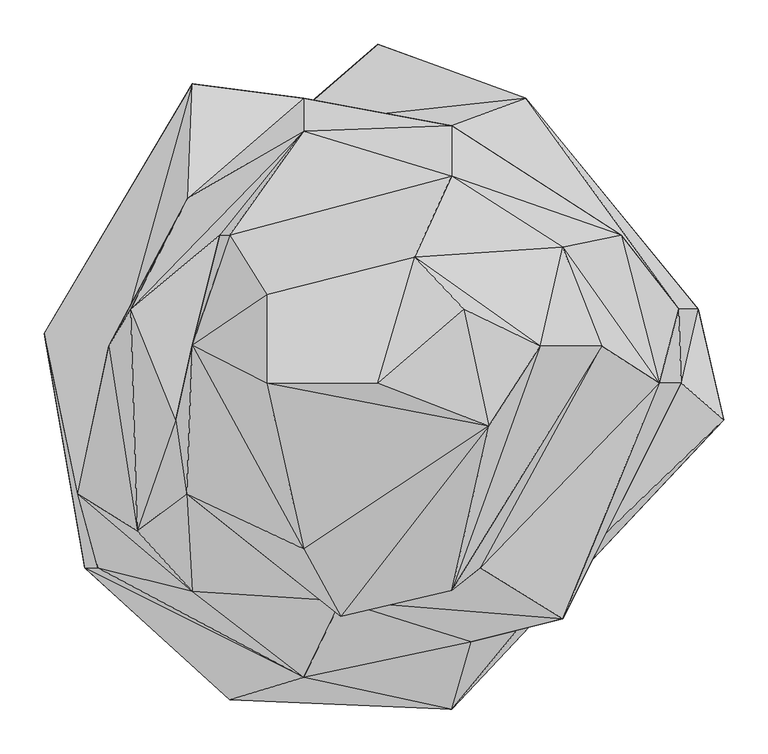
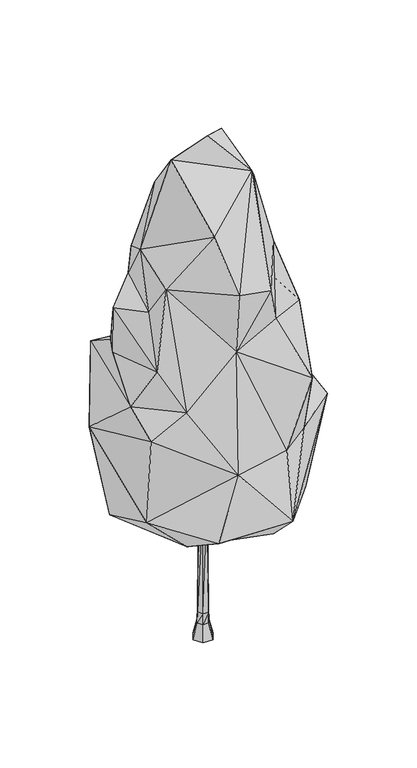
"""IFC4 building model written with IfcOpenShell, lengths in millimetres: geographic element geometry, Enscape AssetDefinition - Coniferous Tree 017 Spruce : Enscape AssetDefinition - Coniferous Tree 017 Spruce 4."""

from ifc_helpers import new_model, si_unit, origin, place, context, project, spatial, triangles, source, transform, mapped, element, save


def geographic_element_a222e020(model_context):
    return source(origin(), model_context, "Body", "Tessellation", [
        triangles([(-302.0208273, 37.0957962, 498.2528721), (-363.6179214, 51.387234, 832.7128349), (-154.2535388, -171.8130774, 456.6667113), (-317.8649729, -213.5947749, 626.5816669), (-154.2535388, -362.9038662, 583.8053535), (-303.4327143, -213.5947749, 918.2652437), (-196.1264553, -240.5940535, 1003.8178705), (-70.5076194, -337.3453245, 789.9365215), (96.9839785, -373.7875042, 583.8053535), (119.1541641, -297.1584424, 789.9365215), (-28.6347211, -251.251161, 1174.9229061), (222.6028007, -271.2110074, 1003.8178705), (222.6028007, -220.9975752, 789.9365215), (375.2889387, 78.8774892, 626.5816669), (404.2813914, -46.4677305, 747.1602081), (306.3486337, -88.2495461, 468.3243573), (96.9839785, -255.3765996, 466.6047675), (306.3486337, 37.0957962, 478.4427804), (353.5501857, 78.8774892, 918.2652437), (180.729757, 317.6248713, 754.9103891), (331.1138735, -4.6860322, 1089.3702793), (288.3307654, 162.4410114, 1132.1466654), (96.9839785, 229.1676616, 1346.027869), (356.121722, -4.6860322, 832.7128349), (266.1246717, 37.0957962, 1303.251701), (222.6028007, 149.0298205, 1217.6991468), (129.2892922, -213.5947749, 1217.6991468), (96.9839785, -239.49036, 1346.027869), (196.8825683, 37.0957962, 1572.0666882), (-112.3805223, -4.6860322, 1755.5854282), (138.857004, -53.5623147, 1657.6190243), (-28.6347211, -268.8050496, 1388.8040371), (-202.7155153, -130.0312527, 1388.8040371), (-70.5076194, -192.4187964, 1572.0666882), (-214.8372499, -46.4677305, 1260.4753876), (-258.4558448, -171.8130774, 1132.1466654), (-196.1264553, 38.2607097, 1431.5802052), (13.2381795, -4.6860322, 1799.9998684), (110.3834604, 78.8774892, 1743.1715057), (55.1110801, 137.8434939, 1614.8430016), (-112.3805223, 95.4362441, 1614.8430016), (-165.0425241, 162.4410114, 1260.4753876), (-154.2535388, 162.4410114, 1355.1448997), (-70.5076194, 280.1431475, 1174.9229061), (96.9839785, 286.0549596, 1089.3702793), (-70.5076194, 317.2097803, 918.2652437), (-265.8052872, 78.8774892, 1217.6991468), (-201.3145652, 204.2228542, 1003.8178705), (-290.5253808, 37.0957962, 1089.3702793), (-196.1264553, 333.5143447, 918.2652437), (222.6028007, 252.3769825, 541.0290765), (13.2381795, 378.2695344, 626.5816669), (138.857004, 246.0045517, 473.650086), (-112.3805223, 246.0045517, 483.5741169), (-28.6347211, 296.267781, 541.0290765), (-91.0024758, 287.7863401, 626.5816669), (-326.0127314, -130.0312527, 1003.8178705), (10.5894631, 17.2318992, 26.7138195), (20.4449389, -0.0842557, 26.7138195), (34.9928768, -0.0018009, -29.5859734), (10.0808413, 16.1301439, 65.7256257), (10.3764435, -17.2774372, 26.7138195), (17.7217403, -29.8350089, -29.5859734), (-33.9508029, 0.0793676, -29.5859734), (-16.7500359, -29.7944909, -29.5859734), (-9.547522, -17.1543342, 26.7138195), (9.6766713, -16.2859211, 65.7256257), (-19.4028673, 0.1618224, 26.7138195), (-18.194345, 0.272191, 65.7256257), (-6.5323252, -12.9720348, 488.0203935), (-9.038772, -16.0525778, 65.7256257), (8.2619469, -12.5750682, 488.0203935), (-14.2733021, -0.3582475, 488.0203935), (17.7921042, 29.8719276, -29.5859734), (-16.6797992, 29.9125773, -29.5859734), (-9.3343741, 17.3548739, 26.7138195), (-8.634602, 16.3634872, 65.7256257), (-7.2200069, 12.652506, 488.0203935), (7.5743952, 13.0494737, 488.0203935), (19.2364144, -0.1946242, 65.7256257), (15.3153726, 0.4358143, 488.0203935)], [[81, 72, 67], [67, 80, 81], [79, 81, 80], [80, 61, 79], [61, 80, 59], [78, 79, 61], [61, 77, 78], [73, 78, 77], [74, 75, 76], [70, 73, 69], [77, 69, 73], [69, 77, 76], [71, 67, 72], [72, 70, 71], [69, 71, 70], [71, 69, 68], [76, 68, 69], [68, 76, 75], [75, 64, 68], [67, 71, 66], [68, 66, 71], [66, 68, 64], [62, 59, 80], [80, 67, 62], [66, 62, 67], [62, 66, 65], [64, 65, 66], [59, 62, 63], [65, 63, 62], [63, 60, 59], [58, 76, 77], [77, 61, 58], [76, 58, 74], [59, 58, 61], [60, 74, 58], [58, 59, 60], [36, 57, 7], [57, 36, 49], [57, 50, 2], [56, 1, 2], [2, 50, 56], [56, 55, 1], [1, 55, 54], [56, 53, 55], [55, 53, 54], [52, 53, 56], [53, 20, 51], [56, 20, 52], [52, 20, 53], [56, 45, 20], [46, 56, 50], [45, 56, 46], [48, 46, 50], [50, 57, 48], [57, 49, 48], [47, 48, 49], [36, 47, 49], [48, 44, 46], [47, 44, 48], [44, 45, 46], [44, 23, 45], [43, 23, 44], [43, 44, 42], [42, 44, 47], [35, 42, 47], [36, 35, 47], [37, 43, 42], [35, 37, 42], [41, 43, 37], [41, 40, 23], [41, 23, 43], [38, 39, 40], [41, 38, 40], [30, 38, 41], [30, 41, 37], [34, 30, 37], [33, 36, 7], [33, 35, 36], [33, 34, 37], [33, 37, 35], [11, 33, 7], [34, 33, 32], [32, 33, 11], [31, 34, 32], [31, 39, 38], [30, 31, 38], [31, 30, 34], [39, 29, 40], [31, 29, 39], [11, 28, 32], [31, 28, 29], [32, 28, 31], [28, 11, 27], [12, 27, 11], [29, 28, 25], [25, 28, 27], [29, 25, 26], [40, 26, 23], [40, 29, 26], [25, 21, 26], [27, 21, 25], [27, 12, 21], [21, 12, 24], [23, 26, 22], [23, 22, 45], [26, 21, 22], [21, 24, 19], [45, 22, 19], [22, 21, 19], [45, 19, 20], [19, 24, 14], [19, 14, 20], [18, 53, 51], [20, 18, 51], [20, 14, 18], [18, 54, 53], [17, 1, 54], [17, 54, 18], [16, 17, 18], [15, 16, 18], [24, 15, 14], [14, 15, 18], [24, 12, 13], [13, 15, 24], [12, 10, 13], [12, 11, 10], [13, 10, 9], [15, 13, 9], [15, 9, 16], [9, 17, 16], [3, 1, 17], [9, 3, 17], [9, 5, 3], [9, 8, 5], [10, 8, 9], [11, 8, 10], [11, 7, 8], [6, 7, 57], [57, 2, 6], [8, 7, 6], [5, 8, 4], [3, 5, 4], [8, 6, 4], [4, 2, 1], [4, 1, 3], [4, 6, 2]], closed=False),
    ])


if __name__ == "__main__":
    model = new_model("IFC4")
    model_context = context("Model", 3, world=origin())
    ifc_project = project(units=[si_unit("LENGTHUNIT", "METRE", prefix="MILLI")], contexts=[model_context])
    site = spatial("IfcSite", under=ifc_project)
    building = spatial("IfcBuilding", under=site)
    placement = place(None, origin())
    geographic_element_shape = geographic_element_a222e020(model_context)
    element("IfcGeographicElement", 1, ObjectType="Enscape AssetDefinition - Coniferous Tree 017 Spruce : Enscape AssetDefinition - Coniferous Tree 017 Spruce 4", at=placement, inside=building, context=model_context, shape_type="MappedRepresentation", body=[
        mapped(geographic_element_shape, transform((0.0, 0.0, 0.0), x_axis=(1.0, 0.0, 0.0), y_axis=(0.0, 1.0, 0.0), z_axis=(0.0, 0.0, 1.0))),
    ])
    save(model, "model.ifc")
